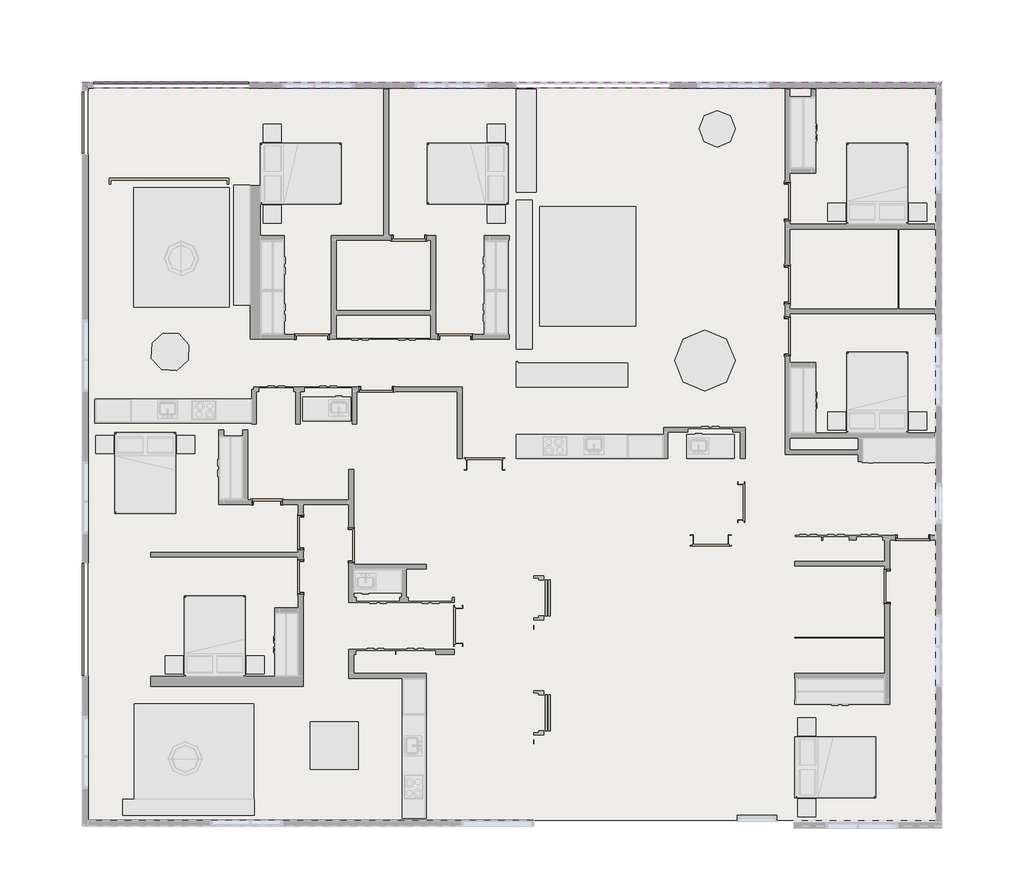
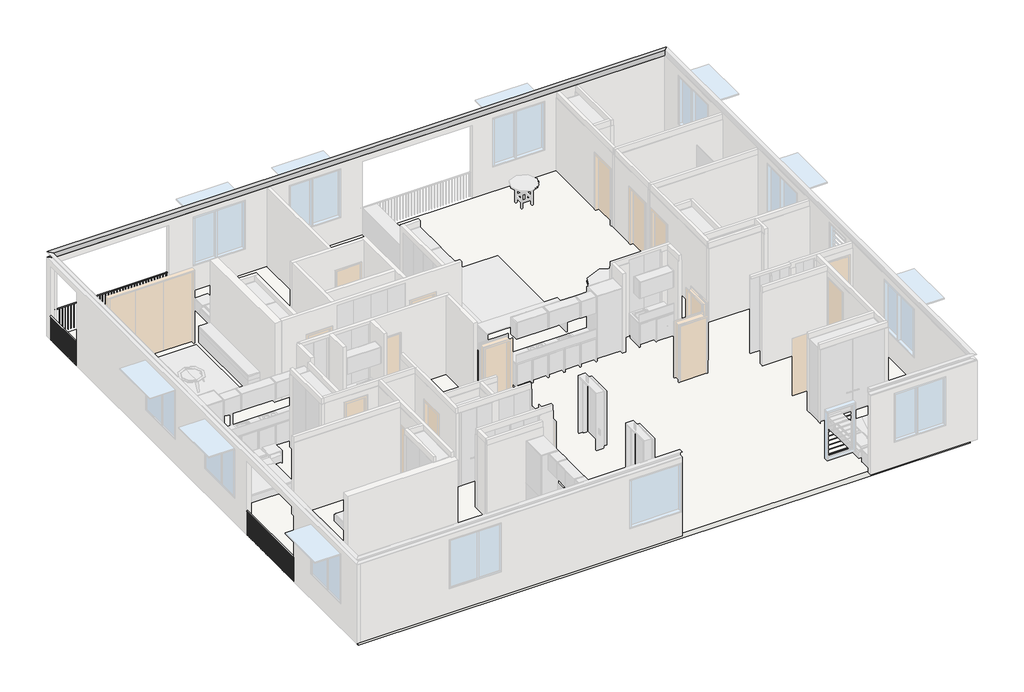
# One storey, part 4 of 5: 3 railings, 1 proxy, 1 slab.
"""IFC4 building model written with IfcOpenShell, lengths in millimetres."""

from ifc_helpers import new_model, si_unit, point, frame, frame_2d, origin, place, context, project, spatial, polyline, circle_curve, ellipse_curve, trimmed, segment, composite_curve, outline, extrude, faceted_brep, element, save
from ifc_brep_helpers import plane_surface, revolved_surface, advanced_brep

model = new_model("IFC4")

# Units and contexts
model_context = context("Model", 3, world=origin())
ifc_project = project(units=[si_unit("LENGTHUNIT", "METRE", prefix="MILLI")], contexts=[model_context])

# Site, building, storey
site = spatial("IfcSite", under=ifc_project)
building = spatial("IfcBuilding", under=site)
storey = spatial("IfcBuildingStorey", under=building, Name="10階", Elevation=57800.0)

# Proxy
placement = place(None, origin())
element("IfcBuildingElementProxy", 1, Name="Slab Edge_PFC'", ObjectType="Slab Edge_PFC'", at=placement, inside=storey, context=model_context, shape_type="AdvancedBrep", body=[
    advanced_brep(
    [(23783.6171203, 18560.0, 60900.0), (23783.6171203, 18560.0, 60700.0), (23933.6171203, 18710.0, 60700.0), (23933.6171203, 18710.0, 60712.0), (23801.6171203, 18578.0, 60712.0), (23789.6171203, 18566.0, 60724.0), (23789.6171203, 18566.0, 60876.0), (23801.6171203, 18578.0, 60888.0), (23933.6171203, 18710.0, 60888.0), (23933.6171203, 18710.0, 60900.0), (2519.6057353, 18560.0, 60900.0), (2369.6057353, 18710.0, 60900.0), (2369.6057353, 18710.0, 60888.0), (2501.6057353, 18578.0, 60888.0), (2513.6057353, 18566.0, 60876.0), (2513.6057353, 18566.0, 60724.0), (2501.6057353, 18578.0, 60712.0), (2369.6057353, 18710.0, 60712.0), (2369.6057353, 18710.0, 60700.0), (2519.6057353, 18560.0, 60700.0)],
    [
        (0, 1),
        (1, 2),
        (2, 3),
        (3, 4),
        (4, 5, ellipse_curve(frame((23801.6171203, 18578.0, 60724.0), z_axis=(-0.7071067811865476, 0.7071067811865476, 0.0), x_axis=(-0.7071067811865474, -0.7071067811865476, 0.0)), 16.9705627, 12.0)),
        (5, 6),
        (6, 7, ellipse_curve(frame((23801.6171203, 18578.0, 60876.0), z_axis=(-0.7071067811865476, 0.7071067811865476, 0.0), x_axis=(-0.7071067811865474, -0.7071067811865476, 0.0)), 16.9705627, 12.0)),
        (7, 8),
        (8, 9),
        (9, 0),
        (10, 11),
        (11, 12),
        (12, 13),
        (13, 14, ellipse_curve(frame((2501.6057353, 18578.0, 60876.0), z_axis=(0.7071067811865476, 0.7071067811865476, 0.0), x_axis=(-0.7071067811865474, 0.7071067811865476, 0.0)), 16.9705627, 12.0)),
        (14, 15),
        (15, 16, ellipse_curve(frame((2501.6057353, 18578.0, 60724.0), z_axis=(0.7071067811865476, 0.7071067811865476, 0.0), x_axis=(-0.7071067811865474, 0.7071067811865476, 0.0)), 16.9705627, 12.0)),
        (16, 17),
        (17, 18),
        (18, 19),
        (19, 10),
        (0, 10),
        (19, 1),
        (18, 2),
        (17, 3),
        (16, 4),
        (15, 5),
        (14, 6),
        (13, 7),
        (12, 8),
        (11, 9),
    ],
    [
        plane_surface(frame((23783.6171203, 18560.0, 60900.0), z_axis=(0.7071067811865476, -0.7071067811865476, 0.0), x_axis=(0.7071067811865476, 0.7071067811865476, 0.0))),
        plane_surface(frame((2519.6057353, 18560.0, 60900.0), z_axis=(-0.7071067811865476, -0.7071067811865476, 0.0), x_axis=(0.7071067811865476, -0.7071067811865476, 0.0))),
        plane_surface(frame((23783.6171203, 18560.0, 60900.0), z_axis=(0.0, -1.0, 0.0), x_axis=(-1.0, 0.0, 0.0))),
        plane_surface(frame((23783.6171203, 18560.0, 60700.0), z_axis=(0.0, 0.0, -1.0), x_axis=(-1.0, 0.0, 0.0))),
        plane_surface(frame((23933.6171203, 18710.0, 60700.0), z_axis=(0.0, 1.0, 0.0), x_axis=(-1.0, 0.0, 0.0))),
        plane_surface(frame((23933.6171203, 18710.0, 60712.0), z_axis=(0.0, 0.0, 1.0), x_axis=(-1.0, 0.0, 0.0))),
        revolved_surface(polyline([(2489.6057353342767, 18590.0, 60724.0), (23813.617120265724, 18590.0, 60724.0)]), (23783.6171203, 18578.0, 60724.0), (-1.0, 0.0, 0.0)),
        plane_surface(frame((23789.6171203, 18566.0, 60724.0), z_axis=(0.0, 1.0, 0.0), x_axis=(-1.0, 0.0, 0.0))),
        revolved_surface(polyline([(2489.6057353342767, 18590.0, 60876.0), (23813.617120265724, 18590.0, 60876.0)]), (23783.6171203, 18578.0, 60876.0), (-1.0, 0.0, 0.0)),
        plane_surface(frame((23801.6171203, 18578.0, 60888.0), z_axis=(0.0, 0.0, -1.0), x_axis=(-1.0, 0.0, 0.0))),
        plane_surface(frame((23933.6171203, 18710.0, 60888.0), z_axis=(0.0, 1.0, 0.0), x_axis=(-1.0, 0.0, 0.0))),
        plane_surface(frame((23933.6171203, 18710.0, 60900.0), z_axis=(0.0, 0.0, 1.0), x_axis=(-1.0, 0.0, 0.0))),
    ],
    [
        (0, [[1, 2, 3, 4, 5, 6, 7, 8, 9, 10]]),
        (1, [[11, 12, 13, 14, 15, 16, 17, 18, 19, 20]]),
        (2, [[-1, 21, -20, 22]]),
        (3, [[-2, -22, -19, 23]]),
        (4, [[-3, -23, -18, 24]]),
        (5, [[-4, -24, -17, 25]]),
        (6, [[-5, -25, -16, 26]]),
        (7, [[-6, -26, -15, 27]]),
        (8, [[-7, -27, -14, 28]]),
        (9, [[-8, -28, -13, 29]]),
        (10, [[-9, -29, -12, 30]]),
        (11, [[-10, -30, -11, -21]]),
    ],
),
])

# Railings
element("IfcRailing", 2, ObjectType="900mm", at=placement, inside=storey, context=model_context, shape_type="SweptSolid", body=[
    extrude(outline(composite_curve([segment(trimmed(circle_curve(frame_2d((18700.0, 58680.0)), 20.0), [point((18680.0, 58680.0))], [point((18720.0, 58680.0))], False, "CARTESIAN"), True, "CONTINUOUS"), segment(trimmed(circle_curve(frame_2d((18700.0, 58680.0)), 20.0), [point((18720.0, 58680.0))], [point((18680.0, 58680.0))], False, "CARTESIAN"), True, "CONTINUOUS")], self_intersect=False)), frame((2614.6057353, 0.0, 0.0), z_axis=(1.0, 0.0, 0.0), x_axis=(0.0, 1.0, 0.0)), (0.0, 0.0, 1.0), 3940.0588639),
    extrude(outline(polyline([(6509.6057353, 18695.0), (6509.6057353, 18705.0), (6519.6057353, 18705.0), (6519.6057353, 18695.0), (6509.6057353, 18695.0)])), frame((0.0, 0.0, 57800.0), z_axis=(0.0, 0.0, 1.0), x_axis=(1.0, 0.0, 0.0)), (0.0, 0.0, 1.0), 860.0),
    extrude(outline(polyline([(6409.6057353, 18695.0), (6409.6057353, 18705.0), (6419.6057353, 18705.0), (6419.6057353, 18695.0), (6409.6057353, 18695.0)])), frame((0.0, 0.0, 57800.0), z_axis=(0.0, 0.0, 1.0), x_axis=(1.0, 0.0, 0.0)), (0.0, 0.0, 1.0), 860.0),
    extrude(outline(polyline([(6309.6057353, 18695.0), (6309.6057353, 18705.0), (6319.6057353, 18705.0), (6319.6057353, 18695.0), (6309.6057353, 18695.0)])), frame((0.0, 0.0, 57800.0), z_axis=(0.0, 0.0, 1.0), x_axis=(1.0, 0.0, 0.0)), (0.0, 0.0, 1.0), 860.0),
    extrude(outline(polyline([(6209.6057353, 18695.0), (6209.6057353, 18705.0), (6219.6057353, 18705.0), (6219.6057353, 18695.0), (6209.6057353, 18695.0)])), frame((0.0, 0.0, 57800.0), z_axis=(0.0, 0.0, 1.0), x_axis=(1.0, 0.0, 0.0)), (0.0, 0.0, 1.0), 860.0),
    extrude(outline(polyline([(6109.6057353, 18695.0), (6109.6057353, 18705.0), (6119.6057353, 18705.0), (6119.6057353, 18695.0), (6109.6057353, 18695.0)])), frame((0.0, 0.0, 57800.0), z_axis=(0.0, 0.0, 1.0), x_axis=(1.0, 0.0, 0.0)), (0.0, 0.0, 1.0), 860.0),
    extrude(outline(polyline([(6009.6057353, 18695.0), (6009.6057353, 18705.0), (6019.6057353, 18705.0), (6019.6057353, 18695.0), (6009.6057353, 18695.0)])), frame((0.0, 0.0, 57800.0), z_axis=(0.0, 0.0, 1.0), x_axis=(1.0, 0.0, 0.0)), (0.0, 0.0, 1.0), 860.0),
    extrude(outline(polyline([(5909.6057353, 18695.0), (5909.6057353, 18705.0), (5919.6057353, 18705.0), (5919.6057353, 18695.0), (5909.6057353, 18695.0)])), frame((0.0, 0.0, 57800.0), z_axis=(0.0, 0.0, 1.0), x_axis=(1.0, 0.0, 0.0)), (0.0, 0.0, 1.0), 860.0),
    extrude(outline(polyline([(5809.6057353, 18695.0), (5809.6057353, 18705.0), (5819.6057353, 18705.0), (5819.6057353, 18695.0), (5809.6057353, 18695.0)])), frame((0.0, 0.0, 57800.0), z_axis=(0.0, 0.0, 1.0), x_axis=(1.0, 0.0, 0.0)), (0.0, 0.0, 1.0), 860.0),
    extrude(outline(polyline([(5709.6057353, 18695.0), (5709.6057353, 18705.0), (5719.6057353, 18705.0), (5719.6057353, 18695.0), (5709.6057353, 18695.0)])), frame((0.0, 0.0, 57800.0), z_axis=(0.0, 0.0, 1.0), x_axis=(1.0, 0.0, 0.0)), (0.0, 0.0, 1.0), 860.0),
    extrude(outline(polyline([(5609.6057353, 18695.0), (5609.6057353, 18705.0), (5619.6057353, 18705.0), (5619.6057353, 18695.0), (5609.6057353, 18695.0)])), frame((0.0, 0.0, 57800.0), z_axis=(0.0, 0.0, 1.0), x_axis=(1.0, 0.0, 0.0)), (0.0, 0.0, 1.0), 860.0),
    extrude(outline(polyline([(5509.6057353, 18695.0), (5509.6057353, 18705.0), (5519.6057353, 18705.0), (5519.6057353, 18695.0), (5509.6057353, 18695.0)])), frame((0.0, 0.0, 57800.0), z_axis=(0.0, 0.0, 1.0), x_axis=(1.0, 0.0, 0.0)), (0.0, 0.0, 1.0), 860.0),
    extrude(outline(polyline([(5409.6057353, 18695.0), (5409.6057353, 18705.0), (5419.6057353, 18705.0), (5419.6057353, 18695.0), (5409.6057353, 18695.0)])), frame((0.0, 0.0, 57800.0), z_axis=(0.0, 0.0, 1.0), x_axis=(1.0, 0.0, 0.0)), (0.0, 0.0, 1.0), 860.0),
    extrude(outline(polyline([(5309.6057353, 18695.0), (5309.6057353, 18705.0), (5319.6057353, 18705.0), (5319.6057353, 18695.0), (5309.6057353, 18695.0)])), frame((0.0, 0.0, 57800.0), z_axis=(0.0, 0.0, 1.0), x_axis=(1.0, 0.0, 0.0)), (0.0, 0.0, 1.0), 860.0),
    extrude(outline(polyline([(5209.6057353, 18695.0), (5209.6057353, 18705.0), (5219.6057353, 18705.0), (5219.6057353, 18695.0), (5209.6057353, 18695.0)])), frame((0.0, 0.0, 57800.0), z_axis=(0.0, 0.0, 1.0), x_axis=(1.0, 0.0, 0.0)), (0.0, 0.0, 1.0), 860.0),
    extrude(outline(polyline([(5109.6057353, 18695.0), (5109.6057353, 18705.0), (5119.6057353, 18705.0), (5119.6057353, 18695.0), (5109.6057353, 18695.0)])), frame((0.0, 0.0, 57800.0), z_axis=(0.0, 0.0, 1.0), x_axis=(1.0, 0.0, 0.0)), (0.0, 0.0, 1.0), 860.0),
    extrude(outline(polyline([(5009.6057353, 18695.0), (5009.6057353, 18705.0), (5019.6057353, 18705.0), (5019.6057353, 18695.0), (5009.6057353, 18695.0)])), frame((0.0, 0.0, 57800.0), z_axis=(0.0, 0.0, 1.0), x_axis=(1.0, 0.0, 0.0)), (0.0, 0.0, 1.0), 860.0),
    extrude(outline(polyline([(4909.6057353, 18695.0), (4909.6057353, 18705.0), (4919.6057353, 18705.0), (4919.6057353, 18695.0), (4909.6057353, 18695.0)])), frame((0.0, 0.0, 57800.0), z_axis=(0.0, 0.0, 1.0), x_axis=(1.0, 0.0, 0.0)), (0.0, 0.0, 1.0), 860.0),
    extrude(outline(polyline([(4809.6057353, 18695.0), (4809.6057353, 18705.0), (4819.6057353, 18705.0), (4819.6057353, 18695.0), (4809.6057353, 18695.0)])), frame((0.0, 0.0, 57800.0), z_axis=(0.0, 0.0, 1.0), x_axis=(1.0, 0.0, 0.0)), (0.0, 0.0, 1.0), 860.0),
    extrude(outline(polyline([(4709.6057353, 18695.0), (4709.6057353, 18705.0), (4719.6057353, 18705.0), (4719.6057353, 18695.0), (4709.6057353, 18695.0)])), frame((0.0, 0.0, 57800.0), z_axis=(0.0, 0.0, 1.0), x_axis=(1.0, 0.0, 0.0)), (0.0, 0.0, 1.0), 860.0),
    extrude(outline(polyline([(4609.6057353, 18695.0), (4609.6057353, 18705.0), (4619.6057353, 18705.0), (4619.6057353, 18695.0), (4609.6057353, 18695.0)])), frame((0.0, 0.0, 57800.0), z_axis=(0.0, 0.0, 1.0), x_axis=(1.0, 0.0, 0.0)), (0.0, 0.0, 1.0), 860.0),
    extrude(outline(polyline([(4509.6057353, 18695.0), (4509.6057353, 18705.0), (4519.6057353, 18705.0), (4519.6057353, 18695.0), (4509.6057353, 18695.0)])), frame((0.0, 0.0, 57800.0), z_axis=(0.0, 0.0, 1.0), x_axis=(1.0, 0.0, 0.0)), (0.0, 0.0, 1.0), 860.0),
    extrude(outline(polyline([(4409.6057353, 18695.0), (4409.6057353, 18705.0), (4419.6057353, 18705.0), (4419.6057353, 18695.0), (4409.6057353, 18695.0)])), frame((0.0, 0.0, 57800.0), z_axis=(0.0, 0.0, 1.0), x_axis=(1.0, 0.0, 0.0)), (0.0, 0.0, 1.0), 860.0),
    extrude(outline(polyline([(4309.6057353, 18695.0), (4309.6057353, 18705.0), (4319.6057353, 18705.0), (4319.6057353, 18695.0), (4309.6057353, 18695.0)])), frame((0.0, 0.0, 57800.0), z_axis=(0.0, 0.0, 1.0), x_axis=(1.0, 0.0, 0.0)), (0.0, 0.0, 1.0), 860.0),
    extrude(outline(polyline([(4209.6057353, 18695.0), (4209.6057353, 18705.0), (4219.6057353, 18705.0), (4219.6057353, 18695.0), (4209.6057353, 18695.0)])), frame((0.0, 0.0, 57800.0), z_axis=(0.0, 0.0, 1.0), x_axis=(1.0, 0.0, 0.0)), (0.0, 0.0, 1.0), 860.0),
    extrude(outline(polyline([(4109.6057353, 18695.0), (4109.6057353, 18705.0), (4119.6057353, 18705.0), (4119.6057353, 18695.0), (4109.6057353, 18695.0)])), frame((0.0, 0.0, 57800.0), z_axis=(0.0, 0.0, 1.0), x_axis=(1.0, 0.0, 0.0)), (0.0, 0.0, 1.0), 860.0),
    extrude(outline(polyline([(4009.6057353, 18695.0), (4009.6057353, 18705.0), (4019.6057353, 18705.0), (4019.6057353, 18695.0), (4009.6057353, 18695.0)])), frame((0.0, 0.0, 57800.0), z_axis=(0.0, 0.0, 1.0), x_axis=(1.0, 0.0, 0.0)), (0.0, 0.0, 1.0), 860.0),
    extrude(outline(polyline([(3909.6057353, 18695.0), (3909.6057353, 18705.0), (3919.6057353, 18705.0), (3919.6057353, 18695.0), (3909.6057353, 18695.0)])), frame((0.0, 0.0, 57800.0), z_axis=(0.0, 0.0, 1.0), x_axis=(1.0, 0.0, 0.0)), (0.0, 0.0, 1.0), 860.0),
    extrude(outline(polyline([(3809.6057353, 18695.0), (3809.6057353, 18705.0), (3819.6057353, 18705.0), (3819.6057353, 18695.0), (3809.6057353, 18695.0)])), frame((0.0, 0.0, 57800.0), z_axis=(0.0, 0.0, 1.0), x_axis=(1.0, 0.0, 0.0)), (0.0, 0.0, 1.0), 860.0),
    extrude(outline(polyline([(3709.6057353, 18695.0), (3709.6057353, 18705.0), (3719.6057353, 18705.0), (3719.6057353, 18695.0), (3709.6057353, 18695.0)])), frame((0.0, 0.0, 57800.0), z_axis=(0.0, 0.0, 1.0), x_axis=(1.0, 0.0, 0.0)), (0.0, 0.0, 1.0), 860.0),
    extrude(outline(polyline([(3609.6057353, 18695.0), (3609.6057353, 18705.0), (3619.6057353, 18705.0), (3619.6057353, 18695.0), (3609.6057353, 18695.0)])), frame((0.0, 0.0, 57800.0), z_axis=(0.0, 0.0, 1.0), x_axis=(1.0, 0.0, 0.0)), (0.0, 0.0, 1.0), 860.0),
    extrude(outline(polyline([(3509.6057353, 18695.0), (3509.6057353, 18705.0), (3519.6057353, 18705.0), (3519.6057353, 18695.0), (3509.6057353, 18695.0)])), frame((0.0, 0.0, 57800.0), z_axis=(0.0, 0.0, 1.0), x_axis=(1.0, 0.0, 0.0)), (0.0, 0.0, 1.0), 860.0),
    extrude(outline(polyline([(3409.6057353, 18695.0), (3409.6057353, 18705.0), (3419.6057353, 18705.0), (3419.6057353, 18695.0), (3409.6057353, 18695.0)])), frame((0.0, 0.0, 57800.0), z_axis=(0.0, 0.0, 1.0), x_axis=(1.0, 0.0, 0.0)), (0.0, 0.0, 1.0), 860.0),
    extrude(outline(polyline([(3309.6057353, 18695.0), (3309.6057353, 18705.0), (3319.6057353, 18705.0), (3319.6057353, 18695.0), (3309.6057353, 18695.0)])), frame((0.0, 0.0, 57800.0), z_axis=(0.0, 0.0, 1.0), x_axis=(1.0, 0.0, 0.0)), (0.0, 0.0, 1.0), 860.0),
    extrude(outline(polyline([(3209.6057353, 18695.0), (3209.6057353, 18705.0), (3219.6057353, 18705.0), (3219.6057353, 18695.0), (3209.6057353, 18695.0)])), frame((0.0, 0.0, 57800.0), z_axis=(0.0, 0.0, 1.0), x_axis=(1.0, 0.0, 0.0)), (0.0, 0.0, 1.0), 860.0),
    extrude(outline(polyline([(3109.6057353, 18695.0), (3109.6057353, 18705.0), (3119.6057353, 18705.0), (3119.6057353, 18695.0), (3109.6057353, 18695.0)])), frame((0.0, 0.0, 57800.0), z_axis=(0.0, 0.0, 1.0), x_axis=(1.0, 0.0, 0.0)), (0.0, 0.0, 1.0), 860.0),
    extrude(outline(polyline([(3009.6057353, 18695.0), (3009.6057353, 18705.0), (3019.6057353, 18705.0), (3019.6057353, 18695.0), (3009.6057353, 18695.0)])), frame((0.0, 0.0, 57800.0), z_axis=(0.0, 0.0, 1.0), x_axis=(1.0, 0.0, 0.0)), (0.0, 0.0, 1.0), 860.0),
    extrude(outline(polyline([(2909.6057353, 18695.0), (2909.6057353, 18705.0), (2919.6057353, 18705.0), (2919.6057353, 18695.0), (2909.6057353, 18695.0)])), frame((0.0, 0.0, 57800.0), z_axis=(0.0, 0.0, 1.0), x_axis=(1.0, 0.0, 0.0)), (0.0, 0.0, 1.0), 860.0),
    extrude(outline(polyline([(2809.6057353, 18695.0), (2809.6057353, 18705.0), (2819.6057353, 18705.0), (2819.6057353, 18695.0), (2809.6057353, 18695.0)])), frame((0.0, 0.0, 57800.0), z_axis=(0.0, 0.0, 1.0), x_axis=(1.0, 0.0, 0.0)), (0.0, 0.0, 1.0), 860.0),
    extrude(outline(polyline([(2709.6057353, 18695.0), (2709.6057353, 18705.0), (2719.6057353, 18705.0), (2719.6057353, 18695.0), (2709.6057353, 18695.0)])), frame((0.0, 0.0, 57800.0), z_axis=(0.0, 0.0, 1.0), x_axis=(1.0, 0.0, 0.0)), (0.0, 0.0, 1.0), 860.0),
    extrude(outline(polyline([(6539.6645991, 18695.0), (6539.6645991, 18705.0), (6549.6645991, 18705.0), (6549.6645991, 18695.0), (6539.6645991, 18695.0)])), frame((0.0, 0.0, 57800.0), z_axis=(0.0, 0.0, 1.0), x_axis=(1.0, 0.0, 0.0)), (0.0, 0.0, 1.0), 860.0),
    extrude(outline(polyline([(2619.6057353, 18695.0), (2619.6057353, 18705.0), (2629.6057353, 18705.0), (2629.6057353, 18695.0), (2619.6057353, 18695.0)])), frame((0.0, 0.0, 57800.0), z_axis=(0.0, 0.0, 1.0), x_axis=(1.0, 0.0, 0.0)), (0.0, 0.0, 1.0), 860.0),
])
element("IfcRailing", 3, ObjectType="900mm", at=placement, inside=storey, context=model_context, shape_type="SweptSolid", body=[
    extrude(outline(composite_curve([segment(trimmed(circle_curve(frame_2d((58680.0, 2379.6057353)), 20.0), [point((58680.0, 2399.6057353))], [point((58680.0, 2359.6057353))], False, "CARTESIAN"), True, "CONTINUOUS"), segment(trimmed(circle_curve(frame_2d((58680.0, 2379.6057353)), 20.0), [point((58680.0, 2359.6057353))], [point((58680.0, 2399.6057353))], False, "CARTESIAN"), True, "CONTINUOUS")], self_intersect=False)), frame((0.0, 3816.2680774, 0.0), z_axis=(0.0, 1.0, 0.0), x_axis=(0.0, 0.0, 1.0)), (0.0, 0.0, 1.0), 2834.048622),
    extrude(outline(polyline([(2384.6057353, 6611.2680774), (2374.6057353, 6611.2680774), (2374.6057353, 6621.2680774), (2384.6057353, 6621.2680774), (2384.6057353, 6611.2680774)])), frame((0.0, 0.0, 57800.0), z_axis=(0.0, 0.0, 1.0), x_axis=(1.0, 0.0, 0.0)), (0.0, 0.0, 1.0), 860.0),
    extrude(outline(polyline([(2384.6057353, 6511.2680774), (2374.6057353, 6511.2680774), (2374.6057353, 6521.2680774), (2384.6057353, 6521.2680774), (2384.6057353, 6511.2680774)])), frame((0.0, 0.0, 57800.0), z_axis=(0.0, 0.0, 1.0), x_axis=(1.0, 0.0, 0.0)), (0.0, 0.0, 1.0), 860.0),
    extrude(outline(polyline([(2384.6057353, 6411.2680774), (2374.6057353, 6411.2680774), (2374.6057353, 6421.2680774), (2384.6057353, 6421.2680774), (2384.6057353, 6411.2680774)])), frame((0.0, 0.0, 57800.0), z_axis=(0.0, 0.0, 1.0), x_axis=(1.0, 0.0, 0.0)), (0.0, 0.0, 1.0), 860.0),
    extrude(outline(polyline([(2384.6057353, 6311.2680774), (2374.6057353, 6311.2680774), (2374.6057353, 6321.2680774), (2384.6057353, 6321.2680774), (2384.6057353, 6311.2680774)])), frame((0.0, 0.0, 57800.0), z_axis=(0.0, 0.0, 1.0), x_axis=(1.0, 0.0, 0.0)), (0.0, 0.0, 1.0), 860.0),
    extrude(outline(polyline([(2384.6057353, 6211.2680774), (2374.6057353, 6211.2680774), (2374.6057353, 6221.2680774), (2384.6057353, 6221.2680774), (2384.6057353, 6211.2680774)])), frame((0.0, 0.0, 57800.0), z_axis=(0.0, 0.0, 1.0), x_axis=(1.0, 0.0, 0.0)), (0.0, 0.0, 1.0), 860.0),
    extrude(outline(polyline([(2384.6057353, 6111.2680774), (2374.6057353, 6111.2680774), (2374.6057353, 6121.2680774), (2384.6057353, 6121.2680774), (2384.6057353, 6111.2680774)])), frame((0.0, 0.0, 57800.0), z_axis=(0.0, 0.0, 1.0), x_axis=(1.0, 0.0, 0.0)), (0.0, 0.0, 1.0), 860.0),
    extrude(outline(polyline([(2384.6057353, 6011.2680774), (2374.6057353, 6011.2680774), (2374.6057353, 6021.2680774), (2384.6057353, 6021.2680774), (2384.6057353, 6011.2680774)])), frame((0.0, 0.0, 57800.0), z_axis=(0.0, 0.0, 1.0), x_axis=(1.0, 0.0, 0.0)), (0.0, 0.0, 1.0), 860.0),
    extrude(outline(polyline([(2384.6057353, 5911.2680774), (2374.6057353, 5911.2680774), (2374.6057353, 5921.2680774), (2384.6057353, 5921.2680774), (2384.6057353, 5911.2680774)])), frame((0.0, 0.0, 57800.0), z_axis=(0.0, 0.0, 1.0), x_axis=(1.0, 0.0, 0.0)), (0.0, 0.0, 1.0), 860.0),
    extrude(outline(polyline([(2384.6057353, 5811.2680774), (2374.6057353, 5811.2680774), (2374.6057353, 5821.2680774), (2384.6057353, 5821.2680774), (2384.6057353, 5811.2680774)])), frame((0.0, 0.0, 57800.0), z_axis=(0.0, 0.0, 1.0), x_axis=(1.0, 0.0, 0.0)), (0.0, 0.0, 1.0), 860.0),
    extrude(outline(polyline([(2384.6057353, 5711.2680774), (2374.6057353, 5711.2680774), (2374.6057353, 5721.2680774), (2384.6057353, 5721.2680774), (2384.6057353, 5711.2680774)])), frame((0.0, 0.0, 57800.0), z_axis=(0.0, 0.0, 1.0), x_axis=(1.0, 0.0, 0.0)), (0.0, 0.0, 1.0), 860.0),
    extrude(outline(polyline([(2384.6057353, 5611.2680774), (2374.6057353, 5611.2680774), (2374.6057353, 5621.2680774), (2384.6057353, 5621.2680774), (2384.6057353, 5611.2680774)])), frame((0.0, 0.0, 57800.0), z_axis=(0.0, 0.0, 1.0), x_axis=(1.0, 0.0, 0.0)), (0.0, 0.0, 1.0), 860.0),
    extrude(outline(polyline([(2384.6057353, 5511.2680774), (2374.6057353, 5511.2680774), (2374.6057353, 5521.2680774), (2384.6057353, 5521.2680774), (2384.6057353, 5511.2680774)])), frame((0.0, 0.0, 57800.0), z_axis=(0.0, 0.0, 1.0), x_axis=(1.0, 0.0, 0.0)), (0.0, 0.0, 1.0), 860.0),
    extrude(outline(polyline([(2384.6057353, 5411.2680774), (2374.6057353, 5411.2680774), (2374.6057353, 5421.2680774), (2384.6057353, 5421.2680774), (2384.6057353, 5411.2680774)])), frame((0.0, 0.0, 57800.0), z_axis=(0.0, 0.0, 1.0), x_axis=(1.0, 0.0, 0.0)), (0.0, 0.0, 1.0), 860.0),
    extrude(outline(polyline([(2384.6057353, 5311.2680774), (2374.6057353, 5311.2680774), (2374.6057353, 5321.2680774), (2384.6057353, 5321.2680774), (2384.6057353, 5311.2680774)])), frame((0.0, 0.0, 57800.0), z_axis=(0.0, 0.0, 1.0), x_axis=(1.0, 0.0, 0.0)), (0.0, 0.0, 1.0), 860.0),
    extrude(outline(polyline([(2384.6057353, 5211.2680774), (2374.6057353, 5211.2680774), (2374.6057353, 5221.2680774), (2384.6057353, 5221.2680774), (2384.6057353, 5211.2680774)])), frame((0.0, 0.0, 57800.0), z_axis=(0.0, 0.0, 1.0), x_axis=(1.0, 0.0, 0.0)), (0.0, 0.0, 1.0), 860.0),
    extrude(outline(polyline([(2384.6057353, 5111.2680774), (2374.6057353, 5111.2680774), (2374.6057353, 5121.2680774), (2384.6057353, 5121.2680774), (2384.6057353, 5111.2680774)])), frame((0.0, 0.0, 57800.0), z_axis=(0.0, 0.0, 1.0), x_axis=(1.0, 0.0, 0.0)), (0.0, 0.0, 1.0), 860.0),
    extrude(outline(polyline([(2384.6057353, 5011.2680774), (2374.6057353, 5011.2680774), (2374.6057353, 5021.2680774), (2384.6057353, 5021.2680774), (2384.6057353, 5011.2680774)])), frame((0.0, 0.0, 57800.0), z_axis=(0.0, 0.0, 1.0), x_axis=(1.0, 0.0, 0.0)), (0.0, 0.0, 1.0), 860.0),
    extrude(outline(polyline([(2384.6057353, 4911.2680774), (2374.6057353, 4911.2680774), (2374.6057353, 4921.2680774), (2384.6057353, 4921.2680774), (2384.6057353, 4911.2680774)])), frame((0.0, 0.0, 57800.0), z_axis=(0.0, 0.0, 1.0), x_axis=(1.0, 0.0, 0.0)), (0.0, 0.0, 1.0), 860.0),
    extrude(outline(polyline([(2384.6057353, 4811.2680774), (2374.6057353, 4811.2680774), (2374.6057353, 4821.2680774), (2384.6057353, 4821.2680774), (2384.6057353, 4811.2680774)])), frame((0.0, 0.0, 57800.0), z_axis=(0.0, 0.0, 1.0), x_axis=(1.0, 0.0, 0.0)), (0.0, 0.0, 1.0), 860.0),
    extrude(outline(polyline([(2384.6057353, 4711.2680774), (2374.6057353, 4711.2680774), (2374.6057353, 4721.2680774), (2384.6057353, 4721.2680774), (2384.6057353, 4711.2680774)])), frame((0.0, 0.0, 57800.0), z_axis=(0.0, 0.0, 1.0), x_axis=(1.0, 0.0, 0.0)), (0.0, 0.0, 1.0), 860.0),
    extrude(outline(polyline([(2384.6057353, 4611.2680774), (2374.6057353, 4611.2680774), (2374.6057353, 4621.2680774), (2384.6057353, 4621.2680774), (2384.6057353, 4611.2680774)])), frame((0.0, 0.0, 57800.0), z_axis=(0.0, 0.0, 1.0), x_axis=(1.0, 0.0, 0.0)), (0.0, 0.0, 1.0), 860.0),
    extrude(outline(polyline([(2384.6057353, 4511.2680774), (2374.6057353, 4511.2680774), (2374.6057353, 4521.2680774), (2384.6057353, 4521.2680774), (2384.6057353, 4511.2680774)])), frame((0.0, 0.0, 57800.0), z_axis=(0.0, 0.0, 1.0), x_axis=(1.0, 0.0, 0.0)), (0.0, 0.0, 1.0), 860.0),
    extrude(outline(polyline([(2384.6057353, 4411.2680774), (2374.6057353, 4411.2680774), (2374.6057353, 4421.2680774), (2384.6057353, 4421.2680774), (2384.6057353, 4411.2680774)])), frame((0.0, 0.0, 57800.0), z_axis=(0.0, 0.0, 1.0), x_axis=(1.0, 0.0, 0.0)), (0.0, 0.0, 1.0), 860.0),
    extrude(outline(polyline([(2384.6057353, 4311.2680774), (2374.6057353, 4311.2680774), (2374.6057353, 4321.2680774), (2384.6057353, 4321.2680774), (2384.6057353, 4311.2680774)])), frame((0.0, 0.0, 57800.0), z_axis=(0.0, 0.0, 1.0), x_axis=(1.0, 0.0, 0.0)), (0.0, 0.0, 1.0), 860.0),
    extrude(outline(polyline([(2384.6057353, 4211.2680774), (2374.6057353, 4211.2680774), (2374.6057353, 4221.2680774), (2384.6057353, 4221.2680774), (2384.6057353, 4211.2680774)])), frame((0.0, 0.0, 57800.0), z_axis=(0.0, 0.0, 1.0), x_axis=(1.0, 0.0, 0.0)), (0.0, 0.0, 1.0), 860.0),
    extrude(outline(polyline([(2384.6057353, 4111.2680774), (2374.6057353, 4111.2680774), (2374.6057353, 4121.2680774), (2384.6057353, 4121.2680774), (2384.6057353, 4111.2680774)])), frame((0.0, 0.0, 57800.0), z_axis=(0.0, 0.0, 1.0), x_axis=(1.0, 0.0, 0.0)), (0.0, 0.0, 1.0), 860.0),
    extrude(outline(polyline([(2384.6057353, 4011.2680774), (2374.6057353, 4011.2680774), (2374.6057353, 4021.2680774), (2384.6057353, 4021.2680774), (2384.6057353, 4011.2680774)])), frame((0.0, 0.0, 57800.0), z_axis=(0.0, 0.0, 1.0), x_axis=(1.0, 0.0, 0.0)), (0.0, 0.0, 1.0), 860.0),
    extrude(outline(polyline([(2384.6057353, 3911.2680774), (2374.6057353, 3911.2680774), (2374.6057353, 3921.2680774), (2384.6057353, 3921.2680774), (2384.6057353, 3911.2680774)])), frame((0.0, 0.0, 57800.0), z_axis=(0.0, 0.0, 1.0), x_axis=(1.0, 0.0, 0.0)), (0.0, 0.0, 1.0), 860.0),
    extrude(outline(polyline([(2384.6057353, 6635.3166994), (2374.6057353, 6635.3166994), (2374.6057353, 6645.3166994), (2384.6057353, 6645.3166994), (2384.6057353, 6635.3166994)])), frame((0.0, 0.0, 57800.0), z_axis=(0.0, 0.0, 1.0), x_axis=(1.0, 0.0, 0.0)), (0.0, 0.0, 1.0), 860.0),
    extrude(outline(polyline([(2384.6057353, 3821.2680774), (2374.6057353, 3821.2680774), (2374.6057353, 3831.2680774), (2384.6057353, 3831.2680774), (2384.6057353, 3821.2680774)])), frame((0.0, 0.0, 57800.0), z_axis=(0.0, 0.0, 1.0), x_axis=(1.0, 0.0, 0.0)), (0.0, 0.0, 1.0), 860.0),
])
element("IfcRailing", 4, ObjectType="900mm", at=placement, inside=storey, context=model_context, shape_type="SweptSolid", body=[
    extrude(outline(composite_curve([segment(trimmed(circle_curve(frame_2d((58680.0, 2379.6057353)), 20.0), [point((58680.0, 2399.6057353))], [point((58680.0, 2359.6057353))], False, "CARTESIAN"), True, "CONTINUOUS"), segment(trimmed(circle_curve(frame_2d((58680.0, 2379.6057353)), 20.0), [point((58680.0, 2359.6057353))], [point((58680.0, 2399.6057353))], False, "CARTESIAN"), True, "CONTINUOUS")], self_intersect=False)), frame((0.0, 16929.8875971, 0.0), z_axis=(0.0, 1.0, 0.0), x_axis=(0.0, 0.0, 1.0)), (0.0, 0.0, 1.0), 1535.1124029),
    extrude(outline(polyline([(2384.6057353, 18424.8875971), (2374.6057353, 18424.8875971), (2374.6057353, 18434.8875971), (2384.6057353, 18434.8875971), (2384.6057353, 18424.8875971)])), frame((0.0, 0.0, 57800.0), z_axis=(0.0, 0.0, 1.0), x_axis=(1.0, 0.0, 0.0)), (0.0, 0.0, 1.0), 860.0),
    extrude(outline(polyline([(2384.6057353, 18324.8875971), (2374.6057353, 18324.8875971), (2374.6057353, 18334.8875971), (2384.6057353, 18334.8875971), (2384.6057353, 18324.8875971)])), frame((0.0, 0.0, 57800.0), z_axis=(0.0, 0.0, 1.0), x_axis=(1.0, 0.0, 0.0)), (0.0, 0.0, 1.0), 860.0),
    extrude(outline(polyline([(2384.6057353, 18224.8875971), (2374.6057353, 18224.8875971), (2374.6057353, 18234.8875971), (2384.6057353, 18234.8875971), (2384.6057353, 18224.8875971)])), frame((0.0, 0.0, 57800.0), z_axis=(0.0, 0.0, 1.0), x_axis=(1.0, 0.0, 0.0)), (0.0, 0.0, 1.0), 860.0),
    extrude(outline(polyline([(2384.6057353, 18124.8875971), (2374.6057353, 18124.8875971), (2374.6057353, 18134.8875971), (2384.6057353, 18134.8875971), (2384.6057353, 18124.8875971)])), frame((0.0, 0.0, 57800.0), z_axis=(0.0, 0.0, 1.0), x_axis=(1.0, 0.0, 0.0)), (0.0, 0.0, 1.0), 860.0),
    extrude(outline(polyline([(2384.6057353, 18024.8875971), (2374.6057353, 18024.8875971), (2374.6057353, 18034.8875971), (2384.6057353, 18034.8875971), (2384.6057353, 18024.8875971)])), frame((0.0, 0.0, 57800.0), z_axis=(0.0, 0.0, 1.0), x_axis=(1.0, 0.0, 0.0)), (0.0, 0.0, 1.0), 860.0),
    extrude(outline(polyline([(2384.6057353, 17924.8875971), (2374.6057353, 17924.8875971), (2374.6057353, 17934.8875971), (2384.6057353, 17934.8875971), (2384.6057353, 17924.8875971)])), frame((0.0, 0.0, 57800.0), z_axis=(0.0, 0.0, 1.0), x_axis=(1.0, 0.0, 0.0)), (0.0, 0.0, 1.0), 860.0),
    extrude(outline(polyline([(2384.6057353, 17824.8875971), (2374.6057353, 17824.8875971), (2374.6057353, 17834.8875971), (2384.6057353, 17834.8875971), (2384.6057353, 17824.8875971)])), frame((0.0, 0.0, 57800.0), z_axis=(0.0, 0.0, 1.0), x_axis=(1.0, 0.0, 0.0)), (0.0, 0.0, 1.0), 860.0),
    extrude(outline(polyline([(2384.6057353, 17724.8875971), (2374.6057353, 17724.8875971), (2374.6057353, 17734.8875971), (2384.6057353, 17734.8875971), (2384.6057353, 17724.8875971)])), frame((0.0, 0.0, 57800.0), z_axis=(0.0, 0.0, 1.0), x_axis=(1.0, 0.0, 0.0)), (0.0, 0.0, 1.0), 860.0),
    extrude(outline(polyline([(2384.6057353, 17624.8875971), (2374.6057353, 17624.8875971), (2374.6057353, 17634.8875971), (2384.6057353, 17634.8875971), (2384.6057353, 17624.8875971)])), frame((0.0, 0.0, 57800.0), z_axis=(0.0, 0.0, 1.0), x_axis=(1.0, 0.0, 0.0)), (0.0, 0.0, 1.0), 860.0),
    extrude(outline(polyline([(2384.6057353, 17524.8875971), (2374.6057353, 17524.8875971), (2374.6057353, 17534.8875971), (2384.6057353, 17534.8875971), (2384.6057353, 17524.8875971)])), frame((0.0, 0.0, 57800.0), z_axis=(0.0, 0.0, 1.0), x_axis=(1.0, 0.0, 0.0)), (0.0, 0.0, 1.0), 860.0),
    extrude(outline(polyline([(2384.6057353, 17424.8875971), (2374.6057353, 17424.8875971), (2374.6057353, 17434.8875971), (2384.6057353, 17434.8875971), (2384.6057353, 17424.8875971)])), frame((0.0, 0.0, 57800.0), z_axis=(0.0, 0.0, 1.0), x_axis=(1.0, 0.0, 0.0)), (0.0, 0.0, 1.0), 860.0),
    extrude(outline(polyline([(2384.6057353, 17324.8875971), (2374.6057353, 17324.8875971), (2374.6057353, 17334.8875971), (2384.6057353, 17334.8875971), (2384.6057353, 17324.8875971)])), frame((0.0, 0.0, 57800.0), z_axis=(0.0, 0.0, 1.0), x_axis=(1.0, 0.0, 0.0)), (0.0, 0.0, 1.0), 860.0),
    extrude(outline(polyline([(2384.6057353, 17224.8875971), (2374.6057353, 17224.8875971), (2374.6057353, 17234.8875971), (2384.6057353, 17234.8875971), (2384.6057353, 17224.8875971)])), frame((0.0, 0.0, 57800.0), z_axis=(0.0, 0.0, 1.0), x_axis=(1.0, 0.0, 0.0)), (0.0, 0.0, 1.0), 860.0),
    extrude(outline(polyline([(2384.6057353, 17124.8875971), (2374.6057353, 17124.8875971), (2374.6057353, 17134.8875971), (2384.6057353, 17134.8875971), (2384.6057353, 17124.8875971)])), frame((0.0, 0.0, 57800.0), z_axis=(0.0, 0.0, 1.0), x_axis=(1.0, 0.0, 0.0)), (0.0, 0.0, 1.0), 860.0),
    extrude(outline(polyline([(2384.6057353, 17024.8875971), (2374.6057353, 17024.8875971), (2374.6057353, 17034.8875971), (2384.6057353, 17034.8875971), (2384.6057353, 17024.8875971)])), frame((0.0, 0.0, 57800.0), z_axis=(0.0, 0.0, 1.0), x_axis=(1.0, 0.0, 0.0)), (0.0, 0.0, 1.0), 860.0),
    extrude(outline(polyline([(2384.6057353, 18450.0), (2374.6057353, 18450.0), (2374.6057353, 18460.0), (2384.6057353, 18460.0), (2384.6057353, 18450.0)])), frame((0.0, 0.0, 57800.0), z_axis=(0.0, 0.0, 1.0), x_axis=(1.0, 0.0, 0.0)), (0.0, 0.0, 1.0), 860.0),
    extrude(outline(polyline([(2384.6057353, 16934.8875971), (2374.6057353, 16934.8875971), (2374.6057353, 16944.8875971), (2384.6057353, 16944.8875971), (2384.6057353, 16934.8875971)])), frame((0.0, 0.0, 57800.0), z_axis=(0.0, 0.0, 1.0), x_axis=(1.0, 0.0, 0.0)), (0.0, 0.0, 1.0), 860.0),
])

# Slab
element("IfcSlab", 5, ObjectType="Concept Floor_200mm", at=placement, inside=storey, context=model_context, shape_type="Brep", body=[
    faceted_brep([(2519.6057353, 18560.0, 57600.0), (23783.6171203, 18560.0, 57600.0), (23783.6171203, 189.0898177, 57600.0), (20219.6062665, 189.0898177, 57600.0), (13694.6062665, 189.0898177, 57600.0), (2519.6057353, 189.0898177, 57600.0), (2519.6057353, 18560.0, 57800.0), (2519.6057353, 189.0898177, 57800.0), (13694.6062665, 189.0898177, 57800.0), (20219.6062665, 189.0898177, 57800.0), (23783.6171203, 189.0898177, 57800.0), (23783.6171203, 18560.0, 57800.0)], [[[0, 1, 2, 3, 4, 5]], [[6, 7, 8, 9, 10, 11]], [[1, 0, 6, 11]], [[5, 4, 3, 2, 10, 9, 8, 7]], [[0, 5, 7, 6]], [[2, 1, 11, 10]]]),
])

save(model, "model.ifc")
